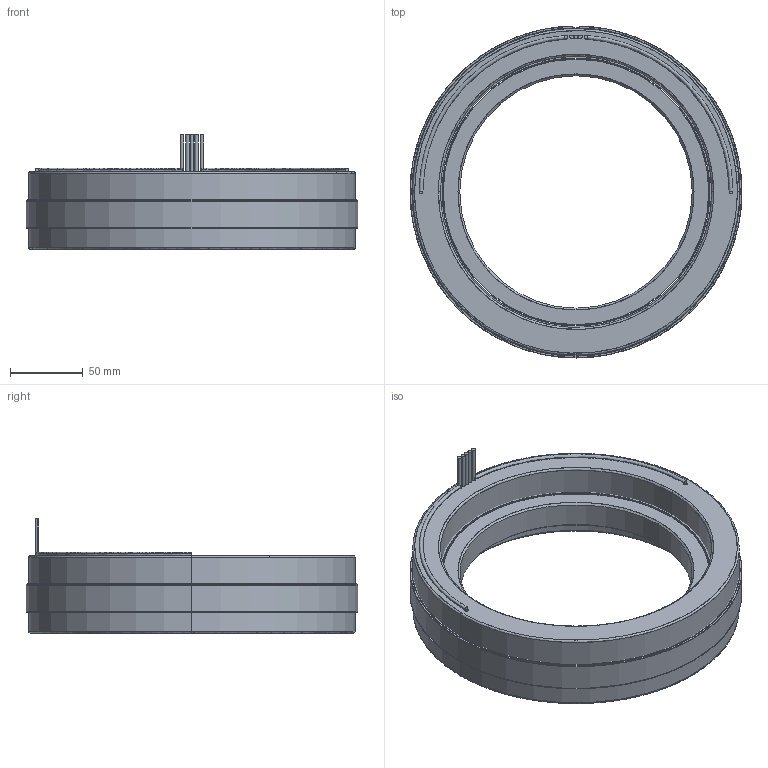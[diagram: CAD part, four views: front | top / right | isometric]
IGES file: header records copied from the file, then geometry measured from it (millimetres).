
Start section: SolidWorks IGES file using analytic representation for surfaces
Global section: file name: Z:\STANDARD STATOR ROTOR SETS\NEW DIRECT DRIVE MOTOR\9 OD 36S 32P\6100346-01.IGS; native system: SolidWorks 2016; preprocessor: SolidWorks 2016; author: eng; date: 191023.163426; units: millimetre
Bounding box: 228.6 x 228.58 x 78.74 mm (x, y, z)
Surface area: 293763.1 mm2 (no closed solid volume)
Topology: 0 solids, 0 shells, 98 faces, 2664 edges, 2664 vertices
Faces by surface type: revolution 56, bspline 42
